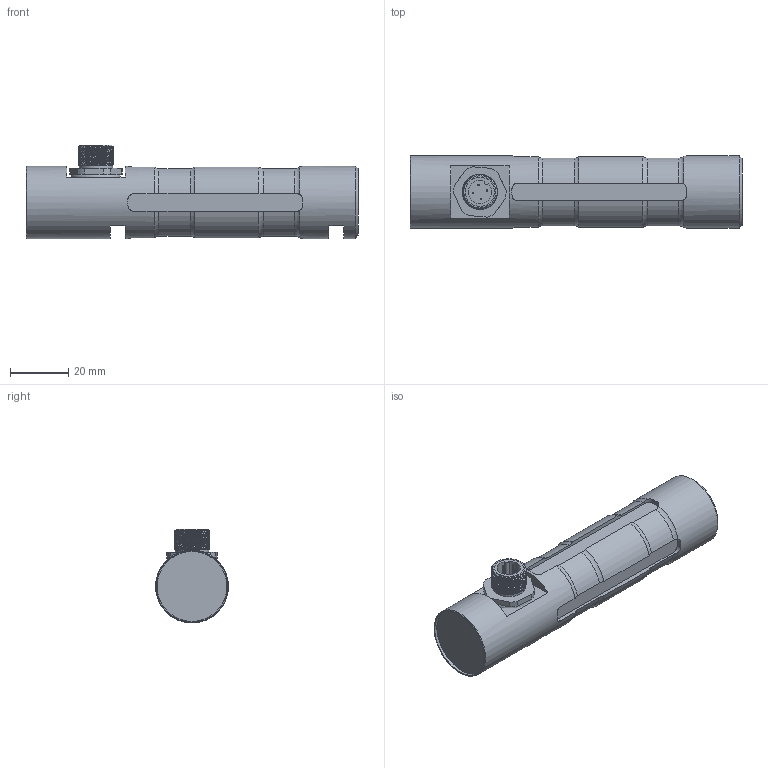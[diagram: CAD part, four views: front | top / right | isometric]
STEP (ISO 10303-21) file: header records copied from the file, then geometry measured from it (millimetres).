
FILE_DESCRIPTION(/* description */ ('Alibre Inc.'),/* implementation_level */ '2;1');
FILE_NAME(/* name */ 'export0',/* time_stamp */ '2016-12-09T10:24:59+01:00',/* author */ (''),/* organization */ (''),/* preprocessor_version */ 'ST-DEVELOPER v14',/* originating_system */ 'Alibre',/* authorisation */ '');
FILE_SCHEMA (('CONFIG_CONTROL_DESIGN'));
Length unit declared in the file: centimetre
Products named in the file (6): ID_1; ID_2; ID_3; ID_4
Bounding box: 114 x 25 x 32.17 mm (x, y, z)
Volume: 51085.6 mm3; surface area: 14568.6 mm2
Topology: 8 solids, 8 shells, 228 faces, 568 edges, 365 vertices
Faces by surface type: plane 109, cylinder 73, bspline 23, torus 17, cone 6
Full cylindrical faces by diameter (mm): 0.5 x8, 8 x2, 10 x3, 11.5 x1, 13 x1, 14.376 x1, 24 x1, 25 x2
Entity records: 17373 total; most frequent: CARTESIAN_POINT 12228, ORIENTED_EDGE 1060, DIRECTION 680, EDGE_CURVE 525, VERTEX_POINT 351, FACE_BOUND 273, EDGE_LOOP 272, AXIS2_PLACEMENT_3D 268
